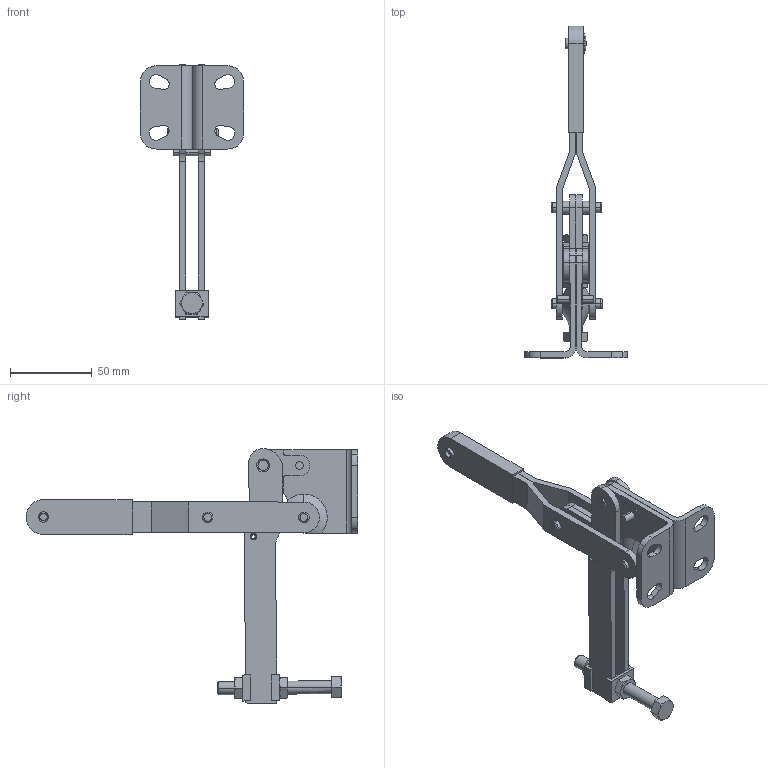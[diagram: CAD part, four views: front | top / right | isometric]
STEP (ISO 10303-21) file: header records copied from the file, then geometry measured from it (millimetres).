
FILE_DESCRIPTION((''),'2;1');
FILE_NAME('C:\lapeer-mfg\v400\STEP\V-400.stp','2005-10-27T19:28:01',('rtaylor'),(''),'Autodesk Inventor 9','Autodesk Inventor 9','');
FILE_SCHEMA(('AUTOMOTIVE_DESIGN { 1 0 10303 214 1 1 1 1 }'));
Length unit declared in the file: inch
Products named in the file (17): V-400; 100011; 120003-L; 120003-R; 130008; 150009; 150034; 150036; 150043; 150044; 102012; W-470005; 171010; 4; 16 - 18; 110019-L; 110019-R
Assembly tree (22 placements, depth 3):
  V-400
    100011  x2
    120003-L
    120003-R
    130008  x2
    150009
    150034  x2
    150036  x2
    150043
    150044
    102012
    W-470005
      171010  x2
      4
      16 - 18  x2
    110019-L
    110019-R
Bounding box: 62.97 x 202.72 x 155.66 mm (x, y, z)
Volume: 94962.2 mm3; surface area: 68469.4 mm2
Topology: 21 solids, 21 shells, 418 faces, 1021 edges, 655 vertices
Faces by surface type: plane 137, cylinder 113, bspline 96, cone 58, torus 12, sphere 2
Entity records: 11163 total; most frequent: CARTESIAN_POINT 2923, DIRECTION 1656, ORIENTED_EDGE 1630, EDGE_CURVE 815, AXIS2_PLACEMENT_3D 618, VERTEX_POINT 527, VECTOR 420, LINE 420
